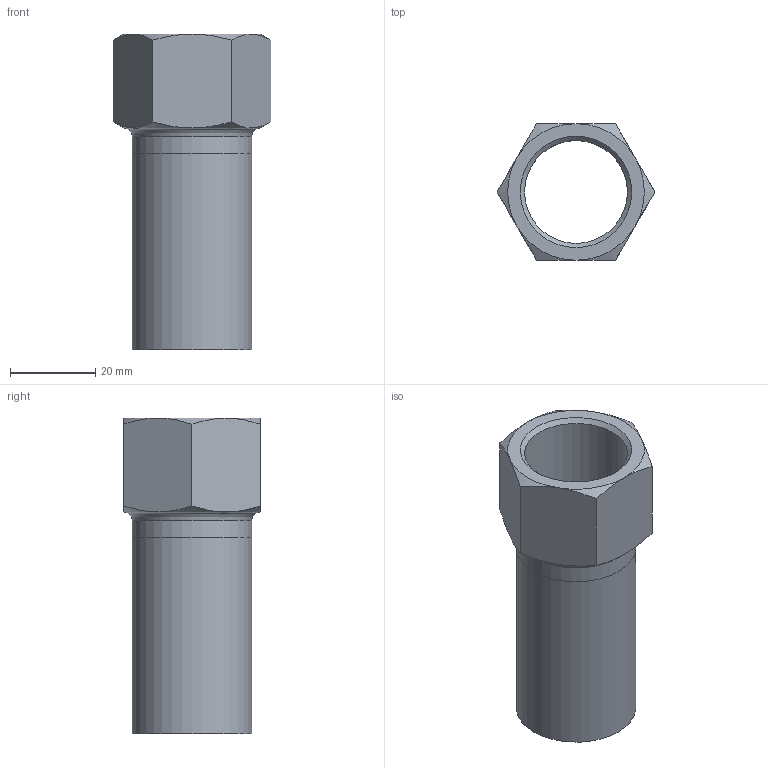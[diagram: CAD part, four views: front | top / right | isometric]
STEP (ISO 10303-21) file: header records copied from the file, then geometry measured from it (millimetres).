
FILE_DESCRIPTION((''),'2;1');
FILE_NAME('G:\Nirosan-Schmiedefeld\Technics\CAD\001 Serie 9.000\028\69246G2834H(1).stp','2017-06-22T15:43:32',('herberg'),(''),'Autodesk Inventor 2009','Autodesk Inventor 2009','');
FILE_SCHEMA(('AUTOMOTIVE_DESIGN { 1 0 10303 214 1 1 1 1 }'));
Length unit declared in the file: millimetre
Products named in the file (3): 69246G2834H(1); 69FXE28P(0); IG2834(1)
Assembly tree (2 placements, depth 2):
  69246G2834H(1)
    69FXE28P(0)
    IG2834(1)
Bounding box: 36.95 x 32 x 74 mm (x, y, z)
Volume: 15821.5 mm3; surface area: 13681.4 mm2
Topology: 2 solids, 2 shells, 30 faces, 62 edges, 37 vertices
Faces by surface type: cone 13, plane 10, bspline 4, cylinder 3
Full cylindrical faces by diameter (mm): 25 x1, 28 x2
Entity records: 864 total; most frequent: CARTESIAN_POINT 252, DIRECTION 114, ORIENTED_EDGE 106, AXIS2_PLACEMENT_3D 54, EDGE_CURVE 53, EDGE_LOOP 42, VERTEX_POINT 35, FACE_OUTER_BOUND 30
